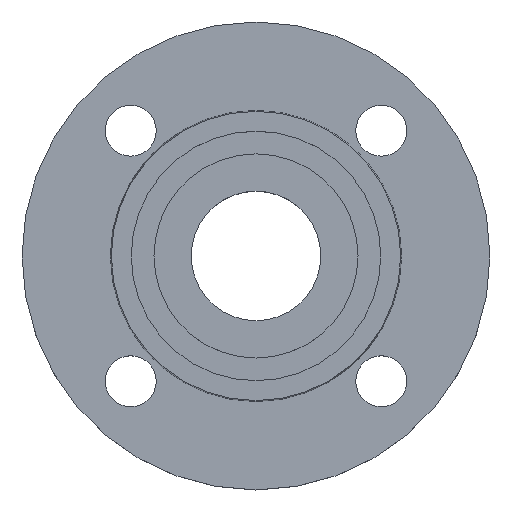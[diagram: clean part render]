
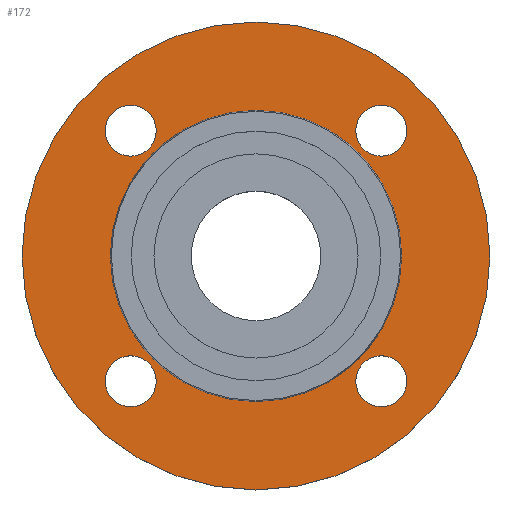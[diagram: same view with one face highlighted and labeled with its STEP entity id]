
A CAD part, top view. The second image highlights one B-rep face of the part: STEP entity #172.
In plain terms, the highlighted planar face has unit normal (0, 0, 1).
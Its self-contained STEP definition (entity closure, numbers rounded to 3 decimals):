
#2 = CARTESIAN_POINT ( 'NONE',  ( -51.353, 0., -2. ) ) ;
#26 = CIRCLE ( 'NONE', #585, 51.353 ) ;
#29 = DIRECTION ( 'NONE',  ( 1., 0., 0. ) ) ;
#30 = DIRECTION ( 'NONE',  ( 0., 0., -1. ) ) ;
#32 = CARTESIAN_POINT ( 'NONE',  ( 0., 0., -2. ) ) ;
#35 = CARTESIAN_POINT ( 'NONE',  ( -44.194, -44.194, -2. ) ) ;
#38 = CARTESIAN_POINT ( 'NONE',  ( 35.194, -44.194, -2. ) ) ;
#40 = CIRCLE ( 'NONE', #272, 9. ) ;
#44 = AXIS2_PLACEMENT_3D ( 'NONE', #35, #30, #29 ) ;
#45 = CARTESIAN_POINT ( 'NONE',  ( 35.194, 44.194, -2. ) ) ;
#47 = CIRCLE ( 'NONE', #55, 82.5 ) ;
#48 = CARTESIAN_POINT ( 'NONE',  ( -82.5, 0., -2. ) ) ;
#53 = AXIS2_PLACEMENT_3D ( 'NONE', #403, #404, #405 ) ;
#55 = AXIS2_PLACEMENT_3D ( 'NONE', #32, #520, #309 ) ;
#56 = CIRCLE ( 'NONE', #57, 9. ) ;
#57 = AXIS2_PLACEMENT_3D ( 'NONE', #263, #845, #453 ) ;
#81 = CARTESIAN_POINT ( 'NONE',  ( 53.194, -44.194, -2. ) ) ;
#87 = CIRCLE ( 'NONE', #44, 9. ) ;
#91 = CARTESIAN_POINT ( 'NONE',  ( 51.353, 0., -2. ) ) ;
#97 = CARTESIAN_POINT ( 'NONE',  ( 51.353, 0., -2. ) ) ;
#99 = PLANE ( 'NONE',  #130 ) ;
#102 = CARTESIAN_POINT ( 'NONE',  ( -53.194, 44.194, -2. ) ) ;
#127 = DIRECTION ( 'NONE',  ( 1., 0., 0. ) ) ;
#129 = DIRECTION ( 'NONE',  ( 0., 0., 1. ) ) ;
#130 = AXIS2_PLACEMENT_3D ( 'NONE', #97, #129, #127 ) ;
#172 = ADVANCED_FACE ( 'NONE', ( #877, #878, #879, #881, #882, #267 ), #99, .T. ) ;
#176 = DIRECTION ( 'NONE',  ( 1., 0., 0. ) ) ;
#178 = DIRECTION ( 'NONE',  ( 0., 0., -1. ) ) ;
#183 = CARTESIAN_POINT ( 'NONE',  ( 44.194, 44.194, -2. ) ) ;
#188 = DIRECTION ( 'NONE',  ( 0., 0., -1. ) ) ;
#189 = CARTESIAN_POINT ( 'NONE',  ( 0., 0., -2. ) ) ;
#193 = DIRECTION ( 'NONE',  ( 1., 0., 0. ) ) ;
#196 = DIRECTION ( 'NONE',  ( -1., 0., 0. ) ) ;
#198 = DIRECTION ( 'NONE',  ( 1., 0., 0. ) ) ;
#200 = CARTESIAN_POINT ( 'NONE',  ( 0., 0., -2. ) ) ;
#203 = EDGE_CURVE ( 'NONE', #697, #550, #823, .T. ) ;
#206 = DIRECTION ( 'NONE',  ( 0., 0., -1. ) ) ;
#207 = DIRECTION ( 'NONE',  ( 0., 0., -1. ) ) ;
#208 = EDGE_CURVE ( 'NONE', #667, #458, #26, .T. ) ;
#223 = DIRECTION ( 'NONE',  ( 1., 0., 0. ) ) ;
#225 = EDGE_CURVE ( 'NONE', #664, #718, #719, .T. ) ;
#226 = CARTESIAN_POINT ( 'NONE',  ( -44.194, 44.194, -2. ) ) ;
#234 = DIRECTION ( 'NONE',  ( 0., 0., -1. ) ) ;
#248 = CARTESIAN_POINT ( 'NONE',  ( 44.194, -44.194, -2. ) ) ;
#256 = CARTESIAN_POINT ( 'NONE',  ( 53.194, 44.194, -2. ) ) ;
#261 = DIRECTION ( 'NONE',  ( 0., 0., -1. ) ) ;
#263 = CARTESIAN_POINT ( 'NONE',  ( 44.194, -44.194, -2. ) ) ;
#267 = FACE_OUTER_BOUND ( 'NONE', #735, .T. ) ;
#269 = DIRECTION ( 'NONE',  ( -1., 0., 0. ) ) ;
#272 = AXIS2_PLACEMENT_3D ( 'NONE', #449, #261, #198 ) ;
#288 = CIRCLE ( 'NONE', #656, 9. ) ;
#289 = EDGE_CURVE ( 'NONE', #458, #667, #622, .T. ) ;
#291 = CARTESIAN_POINT ( 'NONE',  ( -44.194, -44.194, -2. ) ) ;
#292 = AXIS2_PLACEMENT_3D ( 'NONE', #248, #178, #176 ) ;
#294 = CARTESIAN_POINT ( 'NONE',  ( -53.194, -44.194, -2. ) ) ;
#297 = DIRECTION ( 'NONE',  ( 0., 0., -1. ) ) ;
#301 = DIRECTION ( 'NONE',  ( 1., 0., 0. ) ) ;
#309 = DIRECTION ( 'NONE',  ( -1., 0., 0. ) ) ;
#324 = CIRCLE ( 'NONE', #367, 82.5 ) ;
#331 = ORIENTED_EDGE ( 'NONE', *, *, #208, .T. ) ;
#335 = ORIENTED_EDGE ( 'NONE', *, *, #833, .T. ) ;
#341 = EDGE_CURVE ( 'NONE', #557, #750, #324, .T. ) ;
#351 = AXIS2_PLACEMENT_3D ( 'NONE', #183, #188, #193 ) ;
#360 = EDGE_CURVE ( 'NONE', #720, #707, #288, .T. ) ;
#367 = AXIS2_PLACEMENT_3D ( 'NONE', #189, #206, #196 ) ;
#370 = EDGE_CURVE ( 'NONE', #521, #470, #556, .T. ) ;
#383 = DIRECTION ( 'NONE',  ( 0., 0., -1. ) ) ;
#403 = CARTESIAN_POINT ( 'NONE',  ( 0., 0., -2. ) ) ;
#404 = DIRECTION ( 'NONE',  ( 0., 0., -1. ) ) ;
#405 = DIRECTION ( 'NONE',  ( -1., 0., 0. ) ) ;
#407 = AXIS2_PLACEMENT_3D ( 'NONE', #777, #383, #709 ) ;
#408 = CIRCLE ( 'NONE', #407, 9. ) ;
#443 = CARTESIAN_POINT ( 'NONE',  ( -35.194, -44.194, -2. ) ) ;
#449 = CARTESIAN_POINT ( 'NONE',  ( 44.194, 44.194, -2. ) ) ;
#453 = DIRECTION ( 'NONE',  ( 1., 0., 0. ) ) ;
#458 = VERTEX_POINT ( 'NONE', #91 ) ;
#470 = VERTEX_POINT ( 'NONE', #81 ) ;
#486 = AXIS2_PLACEMENT_3D ( 'NONE', #291, #297, #301 ) ;
#520 = DIRECTION ( 'NONE',  ( 0., 0., -1. ) ) ;
#521 = VERTEX_POINT ( 'NONE', #38 ) ;
#550 = VERTEX_POINT ( 'NONE', #45 ) ;
#552 = ORIENTED_EDGE ( 'NONE', *, *, #871, .T. ) ;
#553 = ORIENTED_EDGE ( 'NONE', *, *, #370, .T. ) ;
#554 = ORIENTED_EDGE ( 'NONE', *, *, #564, .T. ) ;
#556 = CIRCLE ( 'NONE', #292, 9. ) ;
#557 = VERTEX_POINT ( 'NONE', #48 ) ;
#558 = ORIENTED_EDGE ( 'NONE', *, *, #225, .T. ) ;
#559 = ORIENTED_EDGE ( 'NONE', *, *, #360, .T. ) ;
#562 = ORIENTED_EDGE ( 'NONE', *, *, #849, .T. ) ;
#563 = ORIENTED_EDGE ( 'NONE', *, *, #203, .T. ) ;
#564 = EDGE_CURVE ( 'NONE', #718, #664, #87, .T. ) ;
#566 = ORIENTED_EDGE ( 'NONE', *, *, #289, .T. ) ;
#567 = ORIENTED_EDGE ( 'NONE', *, *, #867, .F. ) ;
#568 = ORIENTED_EDGE ( 'NONE', *, *, #341, .F. ) ;
#585 = AXIS2_PLACEMENT_3D ( 'NONE', #200, #234, #269 ) ;
#622 = CIRCLE ( 'NONE', #53, 51.353 ) ;
#656 = AXIS2_PLACEMENT_3D ( 'NONE', #226, #207, #223 ) ;
#664 = VERTEX_POINT ( 'NONE', #294 ) ;
#667 = VERTEX_POINT ( 'NONE', #2 ) ;
#697 = VERTEX_POINT ( 'NONE', #256 ) ;
#707 = VERTEX_POINT ( 'NONE', #102 ) ;
#709 = DIRECTION ( 'NONE',  ( 1., 0., 0. ) ) ;
#718 = VERTEX_POINT ( 'NONE', #443 ) ;
#719 = CIRCLE ( 'NONE', #486, 9. ) ;
#720 = VERTEX_POINT ( 'NONE', #766 ) ;
#735 = EDGE_LOOP ( 'NONE', ( #567, #568 ) ) ;
#740 = EDGE_LOOP ( 'NONE', ( #331, #566 ) ) ;
#744 = EDGE_LOOP ( 'NONE', ( #563, #335 ) ) ;
#747 = EDGE_LOOP ( 'NONE', ( #559, #562 ) ) ;
#749 = EDGE_LOOP ( 'NONE', ( #554, #558 ) ) ;
#750 = VERTEX_POINT ( 'NONE', #838 ) ;
#766 = CARTESIAN_POINT ( 'NONE',  ( -35.194, 44.194, -2. ) ) ;
#770 = EDGE_LOOP ( 'NONE', ( #552, #553 ) ) ;
#777 = CARTESIAN_POINT ( 'NONE',  ( -44.194, 44.194, -2. ) ) ;
#823 = CIRCLE ( 'NONE', #351, 9. ) ;
#833 = EDGE_CURVE ( 'NONE', #550, #697, #40, .T. ) ;
#838 = CARTESIAN_POINT ( 'NONE',  ( 82.5, 0., -2. ) ) ;
#845 = DIRECTION ( 'NONE',  ( 0., 0., -1. ) ) ;
#849 = EDGE_CURVE ( 'NONE', #707, #720, #408, .T. ) ;
#867 = EDGE_CURVE ( 'NONE', #750, #557, #47, .T. ) ;
#871 = EDGE_CURVE ( 'NONE', #470, #521, #56, .T. ) ;
#877 = FACE_BOUND ( 'NONE', #770, .T. ) ;
#878 = FACE_BOUND ( 'NONE', #749, .T. ) ;
#879 = FACE_BOUND ( 'NONE', #747, .T. ) ;
#881 = FACE_BOUND ( 'NONE', #744, .T. ) ;
#882 = FACE_BOUND ( 'NONE', #740, .T. ) ;
